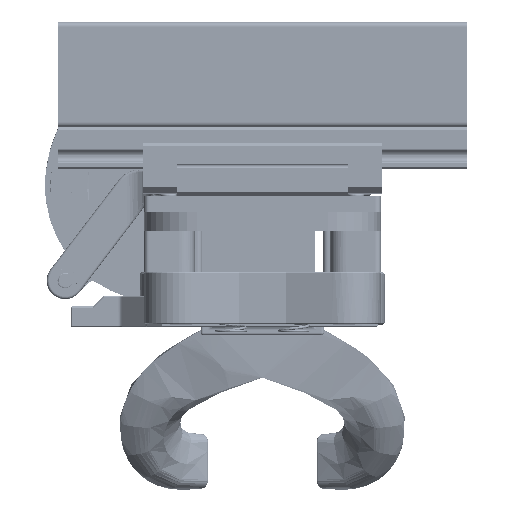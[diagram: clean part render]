
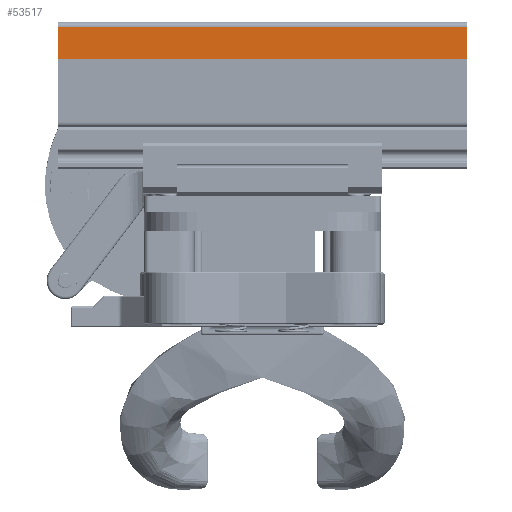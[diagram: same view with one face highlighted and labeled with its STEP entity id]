
A CAD part, top view. The second image highlights one B-rep face of the part: STEP entity #53517.
In plain terms, the highlighted planar face has unit normal (0, 0, 1).
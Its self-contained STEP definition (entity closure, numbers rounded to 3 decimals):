
#4058=PLANE('',#58124);
#6386=FACE_OUTER_BOUND('',#9612,.T.);
#9612=EDGE_LOOP('',(#43868,#43869,#43870,#43871));
#13297=LINE('',#144300,#17358);
#13367=LINE('',#144452,#17428);
#13387=LINE('',#144490,#17448);
#13388=LINE('',#144491,#17449);
#17358=VECTOR('',#68822,10.);
#17428=VECTOR('',#68954,10.);
#17448=VECTOR('',#68992,10.);
#17449=VECTOR('',#68993,10.);
#24699=VERTEX_POINT('',#144297);
#24700=VERTEX_POINT('',#144299);
#24750=VERTEX_POINT('',#144449);
#24751=VERTEX_POINT('',#144451);
#31284=EDGE_CURVE('',#24700,#24699,#13297,.T.);
#31360=EDGE_CURVE('',#24751,#24750,#13367,.T.);
#31381=EDGE_CURVE('',#24699,#24751,#13387,.T.);
#31382=EDGE_CURVE('',#24750,#24700,#13388,.T.);
#43868=ORIENTED_EDGE('',*,*,#31284,.T.);
#43869=ORIENTED_EDGE('',*,*,#31381,.T.);
#43870=ORIENTED_EDGE('',*,*,#31360,.T.);
#43871=ORIENTED_EDGE('',*,*,#31382,.T.);
#53517=ADVANCED_FACE('',(#6386),#4058,.T.);
#58124=AXIS2_PLACEMENT_3D('',#144489,#68990,#68991);
#68822=DIRECTION('',(0.,-1.,0.));
#68954=DIRECTION('',(0.,1.,0.));
#68990=DIRECTION('center_axis',(0.,0.,1.));
#68991=DIRECTION('ref_axis',(0.,-1.,0.));
#68992=DIRECTION('',(1.,0.,0.));
#68993=DIRECTION('',(-1.,0.,0.));
#144297=CARTESIAN_POINT('',(88.1,186.,87.7));
#144299=CARTESIAN_POINT('',(88.1,192.,87.7));
#144300=CARTESIAN_POINT('',(88.1,184.5,87.7));
#144449=CARTESIAN_POINT('',(165.9,192.,87.7));
#144451=CARTESIAN_POINT('',(165.9,186.,87.7));
#144452=CARTESIAN_POINT('',(165.9,184.5,87.7));
#144489=CARTESIAN_POINT('Origin',(127.,186.,87.7));
#144490=CARTESIAN_POINT('',(-38.,186.,87.7));
#144491=CARTESIAN_POINT('',(292.,192.,87.7));
